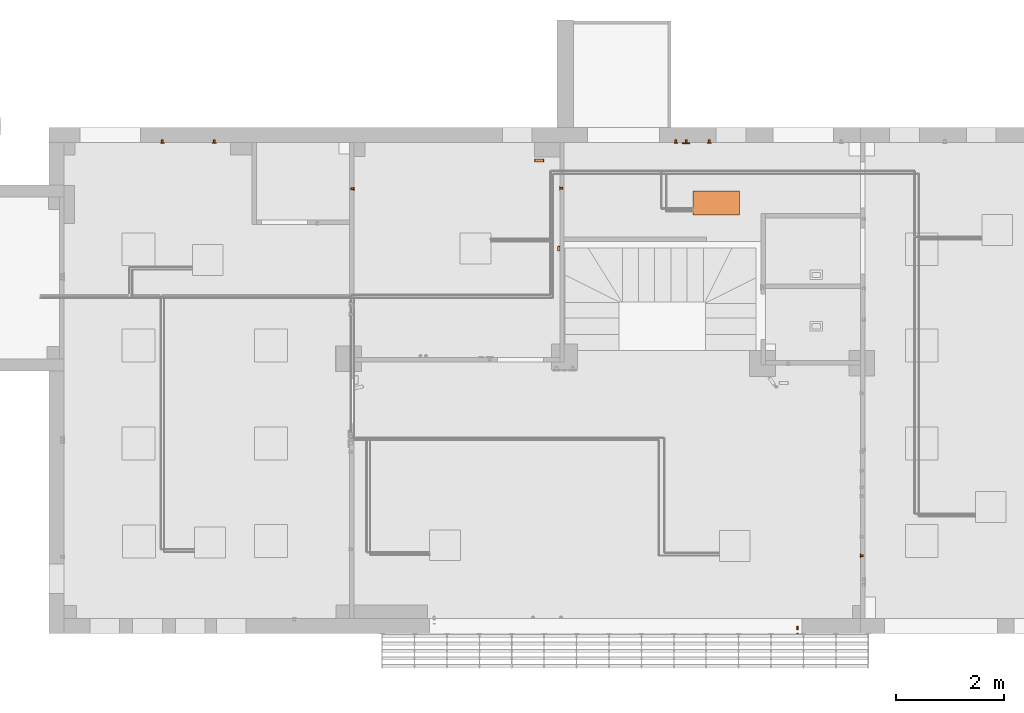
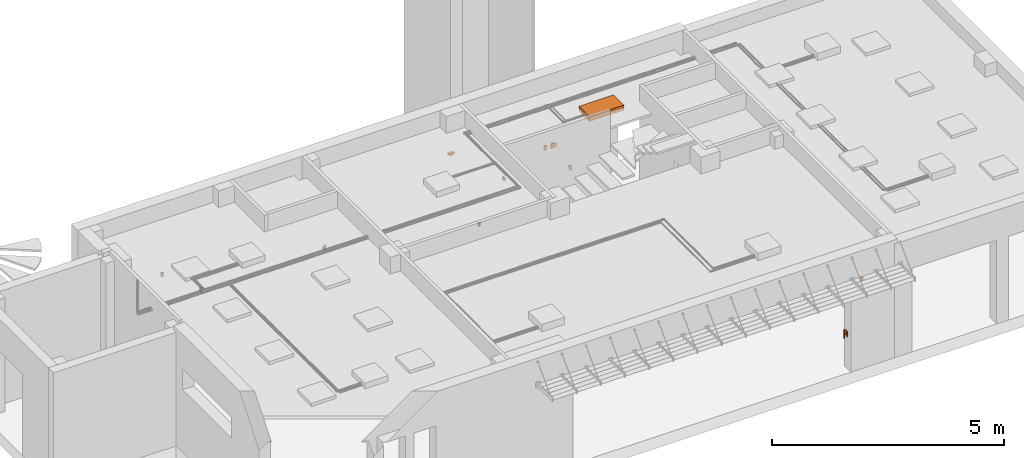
# One storey, part 22 of 24: 12 proxies.
"""IFC2X3 building model written with IfcOpenShell, lengths in millimetres."""

from ifc_helpers import new_model, entity, si_unit, converted_unit, derived_unit, direction, frame, frame_2d, origin, origin_2d_with_axis, place, context, subcontext, project, spatial, polyline, circle_curve, parameter, trimmed, segment, composite_curve, rectangle, circle, outline, extrude, source, transform, mapped, material, material_list, type_object, type_shapes, element, save


model = new_model("IFC2X3")

# Units and contexts
model_context = context("Model", 3, precision=0.01, world=origin(), true_north=direction((6.123031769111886e-17, 1.0)))
body_context = subcontext(model_context, "Body", "Model", "MODEL_VIEW")
ifc_project = project(units=[si_unit("LENGTHUNIT", "METRE", prefix="MILLI"), si_unit("AREAUNIT", "SQUARE_METRE"), si_unit("VOLUMEUNIT", "CUBIC_METRE"), converted_unit("PLANEANGLEUNIT", "DEGREE", entity("IfcRatioMeasure", 0.017453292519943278), si_unit("PLANEANGLEUNIT", "RADIAN"), dimensions=[0, 0, 0, 0, 0, 0, 0]), si_unit("MASSUNIT", "GRAM", prefix="KILO"), derived_unit("MASSDENSITYUNIT", [(si_unit("MASSUNIT", "GRAM", prefix="KILO"), 1), (si_unit("LENGTHUNIT", "METRE"), -3)]), derived_unit("MOMENTOFINERTIAUNIT", [(si_unit("LENGTHUNIT", "METRE"), 4)]), si_unit("TIMEUNIT", "SECOND"), si_unit("FREQUENCYUNIT", "HERTZ"), si_unit("THERMODYNAMICTEMPERATUREUNIT", "DEGREE_CELSIUS"), derived_unit("THERMALTRANSMITTANCEUNIT", [(si_unit("MASSUNIT", "GRAM", prefix="KILO"), 1), (si_unit("THERMODYNAMICTEMPERATUREUNIT", "KELVIN"), -1), (si_unit("TIMEUNIT", "SECOND"), -3)]), derived_unit("VOLUMETRICFLOWRATEUNIT", [(si_unit("LENGTHUNIT", "METRE"), 3), (si_unit("TIMEUNIT", "SECOND"), -1)]), derived_unit("MASSFLOWRATEUNIT", [(si_unit("MASSUNIT", "GRAM", prefix="KILO"), 1), (si_unit("TIMEUNIT", "SECOND"), -1)]), derived_unit("ROTATIONALFREQUENCYUNIT", [(si_unit("TIMEUNIT", "SECOND"), -1)]), si_unit("ELECTRICCURRENTUNIT", "AMPERE"), si_unit("ELECTRICVOLTAGEUNIT", "VOLT"), si_unit("POWERUNIT", "WATT"), si_unit("FORCEUNIT", "NEWTON", prefix="KILO"), si_unit("ILLUMINANCEUNIT", "LUX"), si_unit("LUMINOUSFLUXUNIT", "LUMEN"), si_unit("LUMINOUSINTENSITYUNIT", "CANDELA"), derived_unit("USERDEFINED", [(si_unit("MASSUNIT", "GRAM", prefix="KILO"), -1), (si_unit("LENGTHUNIT", "METRE"), -2), (si_unit("TIMEUNIT", "SECOND"), 3), (si_unit("LUMINOUSFLUXUNIT", "LUMEN"), 1)]), derived_unit("SOUNDPOWERUNIT", [(si_unit("MASSUNIT", "GRAM", prefix="KILO"), 1), (si_unit("LENGTHUNIT", "METRE"), 2), (si_unit("TIMEUNIT", "SECOND"), -3)]), derived_unit("SOUNDPRESSUREUNIT", [(si_unit("MASSUNIT", "GRAM", prefix="KILO"), 1), (si_unit("LENGTHUNIT", "METRE"), -1), (si_unit("TIMEUNIT", "SECOND"), -2)]), derived_unit("LINEARVELOCITYUNIT", [(si_unit("LENGTHUNIT", "METRE"), 1), (si_unit("TIMEUNIT", "SECOND"), -1)]), si_unit("PRESSUREUNIT", "PASCAL"), derived_unit("USERDEFINED", [(si_unit("LENGTHUNIT", "METRE"), -2), (si_unit("MASSUNIT", "GRAM", prefix="KILO"), 1), (si_unit("TIMEUNIT", "SECOND"), -2)]), derived_unit("LINEARFORCEUNIT", [(si_unit("MASSUNIT", "GRAM", prefix="KILO"), 1), (si_unit("LENGTHUNIT", "METRE"), 1), (si_unit("TIMEUNIT", "SECOND"), -2), (si_unit("LENGTHUNIT", "METRE"), -1)]), derived_unit("PLANARFORCEUNIT", [(si_unit("MASSUNIT", "GRAM", prefix="KILO"), 1), (si_unit("LENGTHUNIT", "METRE"), 1), (si_unit("TIMEUNIT", "SECOND"), -2), (si_unit("LENGTHUNIT", "METRE"), -2)])], contexts=[model_context])

# Site, building, storey
site_placement = place(None, origin())
site = spatial("IfcSite", under=ifc_project, at=site_placement, Name="Default", CompositionType="ELEMENT")
building_placement = place(site_placement, origin())
building = spatial("IfcBuilding", under=site, at=building_placement, CompositionType="ELEMENT")
storey_placement = place(building_placement, origin())
storey = spatial("IfcBuildingStorey", under=building, at=storey_placement, Name="Level 1", CompositionType="ELEMENT", Elevation=0.0)

# Proxies
ifc_material_1 = material(Name="Polished Steel")
ifc_material_list_1 = material_list([ifc_material_1, ifc_material_1, ifc_material_1, ifc_material_1, ifc_material_1, ifc_material_1, ifc_material_1, ifc_material_1, ifc_material_1])
ifc_material_list_2 = material_list([ifc_material_1, ifc_material_1, ifc_material_1, ifc_material_1, ifc_material_1, ifc_material_1, ifc_material_1, ifc_material_1, ifc_material_1])
building_element_proxy_type_1 = type_object("IfcBuildingElementProxyType", Name="Alumil Chic:Alumil Chic:Alumil Chic : Alumil Chic:Alumil Chic", PredefinedType="NOTDEFINED", material=ifc_material_list_2)
shared_shape_1 = source(origin(), body_context, "Body", "SweptSolid", [
    extrude(outline(polyline([(-17.0, -63.18070480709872), (17.0, -63.18070480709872), (17.0, 63.18070480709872), (-17.0, 63.18070480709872), (-17.0, -63.18070480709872)]), holes=[composite_curve([segment(polyline([(-7.5000000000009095, 49.659319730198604), (7.4999999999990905, 49.659319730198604)]), True, "CONTINUOUS"), segment(trimmed(circle_curve(frame_2d((7.4999999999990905, 44.659319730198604), x_axis=(-1.0, 0.0)), 5.0), [parameter(179.99999999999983)], [parameter(269.9999999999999)], True, "PARAMETER"), False, "CONTINUOUS"), segment(polyline([(12.49999999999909, 44.659319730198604), (12.49999999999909, -23.30226200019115)]), True, "CONTINUOUS"), segment(trimmed(circle_curve(frame_2d((7.4999999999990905, -23.30226200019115), x_axis=(-1.0, 0.0)), 5.0), [parameter(90.00000000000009)], [parameter(179.99999999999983)], True, "PARAMETER"), False, "CONTINUOUS"), segment(polyline([(7.4999999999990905, -28.302262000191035), (-7.5000000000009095, -28.302262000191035)]), True, "CONTINUOUS"), segment(trimmed(circle_curve(frame_2d((-7.5000000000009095, -23.30226200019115), x_axis=(-1.0, 0.0)), 5.0), [parameter(0.0)], [parameter(90.00000000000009)], True, "PARAMETER"), False, "CONTINUOUS"), segment(polyline([(-12.50000000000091, -23.30226200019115), (-12.50000000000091, 44.659319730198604)]), True, "CONTINUOUS"), segment(trimmed(circle_curve(frame_2d((-7.5000000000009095, 44.659319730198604), x_axis=(-1.0, 0.0)), 5.0), [parameter(269.9999999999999)], [parameter(0.0)], True, "PARAMETER"), False, "CONTINUOUS")], self_intersect=False)]), frame((4439.659498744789, -4079.9664404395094, 1036.8192951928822), z_axis=(0.0, 1.0, 0.0), x_axis=(-1.0, 0.0, 0.0)), (0.0, 0.0, 1.0), 4.013253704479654),
    extrude(outline(composite_curve([segment(trimmed(circle_curve(frame_2d((-7.5, -33.98079086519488), x_axis=(1.0, 0.0)), 4.0), [parameter(180.00000000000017)], [parameter(269.9999999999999)], True, "PARAMETER"), True, "CONTINUOUS"), segment(polyline([(-7.5, -37.98079086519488), (7.5, -37.98079086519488)]), True, "CONTINUOUS"), segment(trimmed(circle_curve(frame_2d((7.5, -33.98079086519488), x_axis=(1.0, 0.0)), 4.0), [parameter(269.9999999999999)], [parameter(0.0)], True, "PARAMETER"), True, "CONTINUOUS"), segment(polyline([(11.5, -33.98079086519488), (11.5, 33.98079086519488)]), True, "CONTINUOUS"), segment(trimmed(circle_curve(frame_2d((7.5, 33.98079086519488), x_axis=(1.0, 0.0)), 4.0), [parameter(0.0)], [parameter(90.00000000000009)], True, "PARAMETER"), True, "CONTINUOUS"), segment(polyline([(7.5, 37.98079086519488), (-7.5, 37.98079086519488)]), True, "CONTINUOUS"), segment(trimmed(circle_curve(frame_2d((-7.5, 33.98079086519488), x_axis=(1.0, 0.0)), 4.0), [parameter(90.00000000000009)], [parameter(180.00000000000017)], True, "PARAMETER"), True, "CONTINUOUS"), segment(polyline([(-11.5, 33.98079086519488), (-11.5, -33.98079086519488)]), True, "CONTINUOUS")], self_intersect=False)), frame((4439.65949874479, -4079.9664404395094, 1047.497824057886), z_axis=(0.0, 1.0, 0.0), x_axis=(1.0, 0.0, 0.0)), (0.0, 0.0, 1.0), 4.013253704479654),
    extrude(rectangle(XDim=14.085299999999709, YDim=34.00000000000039, at=frame_2d((0.0, 2.7000623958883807e-13), x_axis=(1.0, 0.0))), frame((4439.659498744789, -3998.99583673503, 973.6385903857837), z_axis=(0.0, 0.0, 1.0), x_axis=(0.0, -1.0, 0.0)), (0.0, 0.0, 1.0), 126.36140961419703),
    extrude(outline(composite_curve([segment(trimmed(circle_curve(frame_2d((8.939850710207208, -9.376473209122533), x_axis=(-0.7071067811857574, -0.7071067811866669)), 0.535018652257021), [parameter(0.0)], [parameter(90.00000000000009)], True, "PARAMETER"), True, "CONTINUOUS"), segment(polyline([(9.318166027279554, -9.754788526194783), (10.351660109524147, -8.72129444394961)]), True, "CONTINUOUS"), segment(polyline([(10.351660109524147, -8.72129444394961), (-8.721131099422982, 10.351496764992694)]), True, "CONTINUOUS"), segment(polyline([(-8.721131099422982, 10.351496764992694), (-9.755115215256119, 9.317512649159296)]), True, "CONTINUOUS"), segment(trimmed(circle_curve(frame_2d((-9.377289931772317, 8.93968736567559), x_axis=(-0.7071067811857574, -0.7071067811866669)), 0.5343256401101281), [parameter(269.9999999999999)], [parameter(0.0)], True, "PARAMETER"), True, "CONTINUOUS"), segment(polyline([(-9.755115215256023, 8.561862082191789), (8.561535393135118, -9.75478852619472)]), True, "CONTINUOUS")], self_intersect=False)), frame((4426.65949874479, -3990.8003441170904, 1061.7502748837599), z_axis=(1.0, 0.0, 0.0), x_axis=(0.0, -0.7071067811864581, 0.707106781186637)), (0.0, 0.0, 1.0), 26.000000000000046),
    extrude(outline(composite_curve([segment(polyline([(-123.48954396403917, -32.45961095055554), (-98.03977243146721, -32.45961095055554)]), True, "CONTINUOUS"), segment(trimmed(circle_curve(frame_2d((-98.03977243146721, -31.70972865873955), x_axis=(0.0, 1.0)), 0.7498822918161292), [parameter(180.00000000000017)], [parameter(268.5005006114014)], True, "PARAMETER"), True, "CONTINUOUS"), segment(polyline([(-97.29014693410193, -31.72935173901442), (-96.40375935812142, 2.13173011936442)]), True, "CONTINUOUS"), segment(trimmed(circle_curve(frame_2d((-91.40547158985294, 2.0008890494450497), x_axis=(0.0, 1.0)), 5.0), [parameter(0.0)], [parameter(88.50050061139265)], True, "PARAMETER"), False, "CONTINUOUS"), segment(polyline([(-91.40547158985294, 7.00088904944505), (101.87010285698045, 7.0008890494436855)]), True, "CONTINUOUS"), segment(trimmed(circle_curve(frame_2d((101.87010285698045, 3.399517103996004), x_axis=(0.0, 1.0)), 3.6013719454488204), [parameter(330.9999999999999)], [parameter(0.0)], True, "PARAMETER"), False, "CONTINUOUS"), segment(polyline([(103.61608262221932, 6.549347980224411), (110.61685898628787, 2.6687542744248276)]), True, "CONTINUOUS"), segment(trimmed(circle_curve(frame_2d((111.31543601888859, 3.9290206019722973), x_axis=(0.0, 1.0)), 1.44093063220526), [parameter(151.0000000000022)], [parameter(241.00000000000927)], True, "PARAMETER"), True, "CONTINUOUS"), segment(polyline([(112.57570234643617, 3.2304435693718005), (117.30770550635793, 11.767203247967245)]), True, "CONTINUOUS"), segment(trimmed(circle_curve(frame_2d((116.34863282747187, 12.29882591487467), x_axis=(0.0, 1.0)), 1.09655964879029), [parameter(240.99999999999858)], [parameter(328.9999999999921)], True, "PARAMETER"), True, "CONTINUOUS"), segment(polyline([(116.91340279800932, 13.23876098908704), (109.40858564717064, 17.748110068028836)]), True, "CONTINUOUS"), segment(trimmed(circle_curve(frame_2d((103.13334236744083, 7.304351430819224), x_axis=(0.0, 1.0)), 12.184037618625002), [parameter(328.9999999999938)], [parameter(359.9999999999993)], True, "PARAMETER"), True, "CONTINUOUS"), segment(polyline([(103.13334236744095, 19.488389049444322), (-121.51095101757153, 19.488389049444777)]), True, "CONTINUOUS"), segment(trimmed(circle_curve(frame_2d((-121.51095101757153, 17.96218697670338), x_axis=(0.0, 1.0)), 1.52620207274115), [parameter(0.0)], [parameter(88.58270728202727)], True, "PARAMETER"), True, "CONTINUOUS"), segment(polyline([(-123.0366861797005, 17.99993590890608), (-124.26545165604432, -31.66426871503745)]), True, "CONTINUOUS"), segment(trimmed(circle_curve(frame_2d((-123.48954396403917, -31.683465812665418), x_axis=(0.0, 1.0)), 0.7761451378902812), [parameter(88.58270728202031)], [parameter(180.00000000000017)], True, "PARAMETER"), True, "CONTINUOUS")], self_intersect=False)), frame((4427.159498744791, -3957.4969757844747, 950.9023619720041), z_axis=(1.0, 0.0, 0.0), x_axis=(0.0, 0.0, -1.0)), (0.0, 0.0, 1.0), 24.99999999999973),
    extrude(outline(composite_curve([segment(trimmed(circle_curve(frame_2d((0.0, 0.3125), x_axis=(1.0, 0.0)), 17.0), [parameter(181.05329056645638)], [parameter(358.94670943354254)], True, "PARAMETER"), True, "CONTINUOUS"), segment(polyline([(16.997127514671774, 0.0), (-16.997127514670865, 0.0)]), True, "CONTINUOUS")], self_intersect=False)), frame((4439.65949874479, -4079.9664404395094, 1100.0), z_axis=(0.0, 1.0, 0.0), x_axis=(1.0, 0.0, 0.0)), (0.0, 0.0, 1.0), 4.013253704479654),
    extrude(outline(composite_curve([segment(polyline([(-17.0, 0.0), (17.0, 0.0)]), True, "CONTINUOUS"), segment(trimmed(circle_curve(origin_2d_with_axis(), 17.0), [parameter(0.0)], [parameter(180.00000000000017)], True, "PARAMETER"), True, "CONTINUOUS")], self_intersect=False)), frame((4439.65949874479, -4079.9664404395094, 973.6385903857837), z_axis=(0.0, 1.0, 0.0), x_axis=(1.0, 0.0, 0.0)), (0.0, 0.0, 1.0), 4.013253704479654),
    extrude(outline(composite_curve([segment(trimmed(circle_curve(frame_2d((0.0, 0.3125), x_axis=(1.0, 0.0)), 17.0), [parameter(181.05329056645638)], [parameter(358.94670943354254)], True, "PARAMETER"), True, "CONTINUOUS"), segment(polyline([(16.997127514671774, 0.0), (-16.997127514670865, 0.0)]), True, "CONTINUOUS")], self_intersect=False)), frame((4439.65949874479, -4006.03848673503, 1100.0), z_axis=(0.0, 1.0, 0.0), x_axis=(1.0, 0.0, 0.0)), (0.0, 0.0, 1.0), 14.085299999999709),
    extrude(outline(composite_curve([segment(polyline([(-17.0, 0.0), (17.0, 0.0)]), True, "CONTINUOUS"), segment(trimmed(circle_curve(origin_2d_with_axis(), 17.0), [parameter(0.0)], [parameter(180.00000000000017)], True, "PARAMETER"), True, "CONTINUOUS")], self_intersect=False)), frame((4439.65949874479, -4006.03848673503, 973.6385903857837), z_axis=(0.0, 1.0, 0.0), x_axis=(1.0, 0.0, 0.0)), (0.0, 0.0, 1.0), 14.085299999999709),
])
type_shapes(building_element_proxy_type_1, [shared_shape_1])
proxy_1_placement = place(storey_placement, origin())
element("IfcBuildingElementProxy", 1, at=proxy_1_placement, inside=storey, type_object=building_element_proxy_type_1, material=ifc_material_list_1, Name="Alumil Chic:Alumil Chic:Alumil Chic : Alumil Chic:Alumil Chic:Alumil Chic:Alumil Chic : Alumil Chic:Alumil Chic : Alumil Chic:Alumil Chic:Alumil Chic : Alumil Chic:Alumil Chic", ObjectType="Alumil Chic:Alumil Chic:Alumil Chic : Alumil Chic:Alumil Chic:Alumil Chic:Alumil Chic : Alumil Chic:Alumil Chic : Alumil Chic:Alumil Chic:Alumil Chic : Alumil Chic:Alumil Chic", context=body_context, shape_type="MappedRepresentation", body=[
    mapped(shared_shape_1, transform((0.0, 0.0, 0.0), scale=1.0)),
])
ifc_material_2 = material(Name="<Unnamed>")
ifc_material_list_3 = material_list([ifc_material_2, ifc_material_2])
ifc_material_list_4 = material_list([ifc_material_2, ifc_material_2])
building_element_proxy_type_2 = type_object("IfcBuildingElementProxyType", Name="M_Receptacle - 220V:Standard:Standard : M_Receptacle - 220V:Standard", PredefinedType="NOTDEFINED", material=ifc_material_list_4)
shared_shape_2 = source(origin(), body_context, "Body", "SweptSolid", [
    extrude(rectangle(XDim=38.1, YDim=53.97500000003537, at=origin_2d_with_axis()), frame((-6362.64849324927, 5038.14901326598, 421.89999999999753), z_axis=(0.0, 0.0, 1.0), x_axis=(-1.0, 0.0, 0.0)), (0.0, 0.0, 1.0), 76.20000000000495),
    extrude(rectangle(XDim=69.8499999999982, YDim=4.762499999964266, at=frame_2d((5.435651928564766e-13, -5.415667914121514e-13), x_axis=(1.0, 0.0))), frame((-6362.648493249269, 5008.780263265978, 402.84999999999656), z_axis=(0.0, 0.0, 1.0), x_axis=(-1.0, 0.0, 0.0)), (0.0, 0.0, 1.0), 114.30000000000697),
])
type_shapes(building_element_proxy_type_2, [shared_shape_2])
proxy_2_placement = place(storey_placement, origin())
element("IfcBuildingElementProxy", 2, at=proxy_2_placement, inside=storey, type_object=building_element_proxy_type_2, material=ifc_material_list_3, Name="M_Receptacle - 220V:Standard:Standard : M_Receptacle - 220V:Standard:Standard:Standard : M_Receptacle - 220V:Standard : M_Receptacle - 220V:Standard:Standard : M_Receptacle - 220V:Standard", ObjectType="M_Receptacle - 220V:Standard:Standard : M_Receptacle - 220V:Standard:Standard:Standard : M_Receptacle - 220V:Standard : M_Receptacle - 220V:Standard:Standard : M_Receptacle - 220V:Standard", context=body_context, shape_type="MappedRepresentation", body=[
    mapped(shared_shape_2, transform((0.0, 0.0, 0.0), scale=1.0)),
])
ifc_material_list_5 = material_list([ifc_material_2, ifc_material_2])
ifc_material_list_6 = material_list([ifc_material_2, ifc_material_2])
building_element_proxy_type_3 = type_object("IfcBuildingElementProxyType", Name="M_Lighting Switches:Three Way:Three Way : M_Lighting Switches:Three Way", PredefinedType="NOTDEFINED", material=ifc_material_list_6)
shared_shape_3 = source(origin(), body_context, "Body", "SweptSolid", [
    extrude(rectangle(XDim=38.1, YDim=53.97500000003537, at=origin_2d_with_axis()), frame((-7320.53451515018, 5038.14901326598, 1161.8999999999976), z_axis=(0.0, 0.0, 1.0), x_axis=(-1.0, 0.0, 0.0)), (0.0, 0.0, 1.0), 76.20000000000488),
    extrude(rectangle(XDim=69.84999999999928, YDim=4.762499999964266, at=frame_2d((0.0, -5.415667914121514e-13), x_axis=(1.0, 0.0))), frame((-7320.534515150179, 5008.780263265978, 1142.8499999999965), z_axis=(0.0, 0.0, 1.0), x_axis=(-1.0, 0.0, 0.0)), (0.0, 0.0, 1.0), 114.30000000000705),
])
type_shapes(building_element_proxy_type_3, [shared_shape_3])
proxy_3_placement = place(storey_placement, origin())
element("IfcBuildingElementProxy", 3, at=proxy_3_placement, inside=storey, type_object=building_element_proxy_type_3, material=ifc_material_list_5, Name="M_Lighting Switches:Three Way:Three Way : M_Lighting Switches:Three Way:Three Way:Three Way : M_Lighting Switches:Three Way : M_Lighting Switches:Three Way:Three Way : M_Lighting Switches:Three Way", ObjectType="M_Lighting Switches:Three Way:Three Way : M_Lighting Switches:Three Way:Three Way:Three Way : M_Lighting Switches:Three Way : M_Lighting Switches:Three Way:Three Way : M_Lighting Switches:Three Way", context=body_context, shape_type="MappedRepresentation", body=[
    mapped(shared_shape_3, transform((0.0, 0.0, 0.0), scale=1.0)),
])
ifc_material_list_7 = material_list([ifc_material_2, ifc_material_2])
ifc_material_list_8 = material_list([ifc_material_2, ifc_material_2])
building_element_proxy_type_4 = type_object("IfcBuildingElementProxyType", Name="M_Receptacle - 220V:Standard:Standard : M_Receptacle - 220V:Standard", PredefinedType="NOTDEFINED", material=ifc_material_list_8)
shared_shape_4 = source(origin(), body_context, "Body", "SweptSolid", [
    extrude(rectangle(XDim=38.1, YDim=53.975000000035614, at=origin_2d_with_axis()), frame((63.52495185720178, 4166.17742830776, 421.89999999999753), z_axis=(0.0, 0.0, 1.0), x_axis=(0.0, 1.0, 0.0)), (0.0, 0.0, 1.0), 76.20000000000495),
    extrude(rectangle(XDim=69.8499999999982, YDim=4.762499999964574, at=frame_2d((0.0, 2.220446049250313e-15), x_axis=(1.0, 0.0))), frame((34.15620185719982, 4166.17742830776, 402.84999999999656), z_axis=(0.0, 0.0, 1.0), x_axis=(0.0, 1.0, 0.0)), (0.0, 0.0, 1.0), 114.30000000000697),
])
type_shapes(building_element_proxy_type_4, [shared_shape_4])
proxy_4_placement = place(storey_placement, origin())
element("IfcBuildingElementProxy", 4, at=proxy_4_placement, inside=storey, type_object=building_element_proxy_type_4, material=ifc_material_list_7, Name="M_Receptacle - 220V:Standard:Standard : M_Receptacle - 220V:Standard:Standard:Standard : M_Receptacle - 220V:Standard : M_Receptacle - 220V:Standard:Standard : M_Receptacle - 220V:Standard", ObjectType="M_Receptacle - 220V:Standard:Standard : M_Receptacle - 220V:Standard:Standard:Standard : M_Receptacle - 220V:Standard : M_Receptacle - 220V:Standard:Standard : M_Receptacle - 220V:Standard", context=body_context, shape_type="MappedRepresentation", body=[
    mapped(shared_shape_4, transform((0.0, 0.0, 0.0), scale=1.0)),
])
ifc_material_list_9 = material_list([ifc_material_2, ifc_material_2])
ifc_material_list_10 = material_list([ifc_material_2, ifc_material_2])
building_element_proxy_type_5 = type_object("IfcBuildingElementProxyType", Name="M_Lighting Switches:Single Pole:Single Pole : M_Lighting Switches:Single Pole", PredefinedType="NOTDEFINED", material=ifc_material_list_10)
shared_shape_5 = source(origin(), body_context, "Body", "SweptSolid", [
    extrude(rectangle(XDim=38.10000000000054, YDim=53.97500000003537, at=frame_2d((-2.7000623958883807e-13, 0.0), x_axis=(1.0, 0.0))), frame((-3802.3432787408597, 4156.11917681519, 1161.8999999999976), z_axis=(0.0, 0.0, 1.0), x_axis=(0.0, -1.0, 0.0)), (0.0, 0.0, 1.0), 76.20000000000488),
    extrude(rectangle(XDim=69.84999999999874, YDim=4.762499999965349, at=frame_2d((-2.7000623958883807e-13, 0.0), x_axis=(1.0, 0.0))), frame((-3772.9745287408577, 4156.11917681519, 1142.8499999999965), z_axis=(0.0, 0.0, 1.0), x_axis=(0.0, -1.0, 0.0)), (0.0, 0.0, 1.0), 114.30000000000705),
])
type_shapes(building_element_proxy_type_5, [shared_shape_5])
proxy_5_placement = place(storey_placement, origin())
element("IfcBuildingElementProxy", 5, at=proxy_5_placement, inside=storey, type_object=building_element_proxy_type_5, material=ifc_material_list_9, Name="M_Lighting Switches:Single Pole:Single Pole : M_Lighting Switches:Single Pole:Single Pole:Single Pole : M_Lighting Switches:Single Pole : M_Lighting Switches:Single Pole:Single Pole : M_Lighting Switches:Single Pole", ObjectType="M_Lighting Switches:Single Pole:Single Pole : M_Lighting Switches:Single Pole:Single Pole:Single Pole : M_Lighting Switches:Single Pole : M_Lighting Switches:Single Pole:Single Pole : M_Lighting Switches:Single Pole", context=body_context, shape_type="MappedRepresentation", body=[
    mapped(shared_shape_5, transform((0.0, 0.0, 0.0), scale=1.0)),
])
building_element_proxy_type_6 = type_object("IfcBuildingElementProxyType", Name="Indoor LG 1way simple box KRIPIS v1 SYSTEMS:ARNU09GTUC4:ARNU09GTUC4 : Indoor LG 1way simple box KRIPIS v1 SYSTEMS:ARNU09GTUC4", PredefinedType="NOTDEFINED", material=ifc_material_2)
shared_shape_6 = source(origin(), body_context, "Body", "SweptSolid", [
    extrude(rectangle(XDim=860.0, YDim=450.00000000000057, at=frame_2d((-2.5579538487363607e-13, 0.0), x_axis=(1.0, 0.0))), frame((2933.1500495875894, 3894.9280521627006, 2590.0)), (0.0, 0.0, 1.0), 131.99999999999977),
])
type_shapes(building_element_proxy_type_6, [shared_shape_6])
proxy_6_placement = place(storey_placement, origin())
element("IfcBuildingElementProxy", 6, at=proxy_6_placement, inside=storey, type_object=building_element_proxy_type_6, material=ifc_material_2, context=body_context, shape_type="MappedRepresentation", body=[
    mapped(shared_shape_6, transform((0.0, 0.0, 0.0), scale=1.0)),
])
ifc_material_list_11 = material_list([ifc_material_2, ifc_material_2])
ifc_material_list_12 = material_list([ifc_material_2, ifc_material_2])
building_element_proxy_type_7 = type_object("IfcBuildingElementProxyType", Name="M_Weather Proof Receptacle:220 V:220 V : M_Weather Proof Receptacle:220 V", PredefinedType="NOTDEFINED", material=ifc_material_list_12)
shared_shape_7 = source(origin(), body_context, "Body", "SweptSolid", [
    extrude(rectangle(XDim=38.09999999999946, YDim=53.97500000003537, at=frame_2d((-2.7000623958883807e-13, 0.0), x_axis=(1.0, 0.0))), frame((5632.70529323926, -2634.61921183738, 1161.8999999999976), z_axis=(0.0, 0.0, 1.0), x_axis=(0.0, 1.0, 0.0)), (0.0, 0.0, 1.0), 76.20000000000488),
    extrude(rectangle(XDim=69.84999999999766, YDim=4.762499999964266, at=frame_2d((-2.7355895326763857e-13, -5.415667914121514e-13), x_axis=(1.0, 0.0))), frame((5603.336543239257, -2634.61921183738, 1142.8499999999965), z_axis=(0.0, 0.0, 1.0), x_axis=(0.0, 1.0, 0.0)), (0.0, 0.0, 1.0), 114.30000000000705),
])
type_shapes(building_element_proxy_type_7, [shared_shape_7])
proxy_7_placement = place(storey_placement, origin())
element("IfcBuildingElementProxy", 7, at=proxy_7_placement, inside=storey, type_object=building_element_proxy_type_7, material=ifc_material_list_11, Name="M_Weather Proof Receptacle:220 V:220 V : M_Weather Proof Receptacle:220 V:220 V:220 V : M_Weather Proof Receptacle:220 V : M_Weather Proof Receptacle:220 V:220 V : M_Weather Proof Receptacle:220 V", ObjectType="M_Weather Proof Receptacle:220 V:220 V : M_Weather Proof Receptacle:220 V:220 V:220 V : M_Weather Proof Receptacle:220 V : M_Weather Proof Receptacle:220 V:220 V : M_Weather Proof Receptacle:220 V", context=body_context, shape_type="MappedRepresentation", body=[
    mapped(shared_shape_7, transform((0.0, 0.0, 0.0), scale=1.0)),
])
ifc_material_list_13 = material_list([ifc_material_2, ifc_material_2])
ifc_material_list_14 = material_list([ifc_material_2, ifc_material_2])
building_element_proxy_type_8 = type_object("IfcBuildingElementProxyType", Name="M_Receptacle - 220V:Standard:Standard : M_Receptacle - 220V:Standard", PredefinedType="NOTDEFINED", material=ifc_material_list_14)
shared_shape_8 = source(origin(), body_context, "Body", "SweptSolid", [
    extrude(rectangle(XDim=38.09999999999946, YDim=53.97500000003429, at=frame_2d((-2.7000623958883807e-13, -5.400124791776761e-13), x_axis=(1.0, 0.0))), frame((2806.3450924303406, 5038.14901326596, 421.89999999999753), z_axis=(0.0, 0.0, 1.0), x_axis=(-1.0, 0.0, 0.0)), (0.0, 0.0, 1.0), 76.20000000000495),
    extrude(rectangle(XDim=69.84999999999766, YDim=4.762499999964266, at=frame_2d((2.7355895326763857e-13, 5.415667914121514e-13), x_axis=(1.0, 0.0))), frame((2806.3450924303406, 5008.78026326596, 402.84999999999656), z_axis=(0.0, 0.0, 1.0), x_axis=(-1.0, 0.0, 0.0)), (0.0, 0.0, 1.0), 114.30000000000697),
])
type_shapes(building_element_proxy_type_8, [shared_shape_8])
proxy_8_placement = place(storey_placement, origin())
element("IfcBuildingElementProxy", 8, at=proxy_8_placement, inside=storey, type_object=building_element_proxy_type_8, material=ifc_material_list_13, Name="M_Receptacle - 220V:Standard:Standard : M_Receptacle - 220V:Standard:Standard:Standard : M_Receptacle - 220V:Standard : M_Receptacle - 220V:Standard:Standard : M_Receptacle - 220V:Standard", ObjectType="M_Receptacle - 220V:Standard:Standard : M_Receptacle - 220V:Standard:Standard:Standard : M_Receptacle - 220V:Standard : M_Receptacle - 220V:Standard:Standard : M_Receptacle - 220V:Standard", context=body_context, shape_type="MappedRepresentation", body=[
    mapped(shared_shape_8, transform((0.0, 0.0, 0.0), scale=1.0)),
])
ifc_material_list_15 = material_list([ifc_material_2, ifc_material_2])
ifc_material_list_16 = material_list([ifc_material_2, ifc_material_2])
building_element_proxy_type_9 = type_object("IfcBuildingElementProxyType", Name="M_Lighting Switches:Three Way:Three Way : M_Lighting Switches:Three Way", PredefinedType="NOTDEFINED", material=ifc_material_list_16)
shared_shape_9 = source(origin(), body_context, "Body", "SweptSolid", [
    extrude(rectangle(XDim=38.09999999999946, YDim=53.97500000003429, at=frame_2d((2.7000623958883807e-13, -5.400124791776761e-13), x_axis=(1.0, 0.0))), frame((2187.3096550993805, 5038.14901326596, 1161.8999999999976), z_axis=(0.0, 0.0, 1.0), x_axis=(-1.0, 0.0, 0.0)), (0.0, 0.0, 1.0), 76.20000000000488),
    extrude(rectangle(XDim=69.84999999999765, YDim=4.762499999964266, at=frame_2d((0.0, 5.415667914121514e-13), x_axis=(1.0, 0.0))), frame((2187.3096550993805, 5008.78026326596, 1142.8499999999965), z_axis=(0.0, 0.0, 1.0), x_axis=(-1.0, 0.0, 0.0)), (0.0, 0.0, 1.0), 114.30000000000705),
])
type_shapes(building_element_proxy_type_9, [shared_shape_9])
proxy_9_placement = place(storey_placement, origin())
element("IfcBuildingElementProxy", 9, at=proxy_9_placement, inside=storey, type_object=building_element_proxy_type_9, material=ifc_material_list_15, Name="M_Lighting Switches:Three Way:Three Way : M_Lighting Switches:Three Way:Three Way:Three Way : M_Lighting Switches:Three Way : M_Lighting Switches:Three Way:Three Way : M_Lighting Switches:Three Way", ObjectType="M_Lighting Switches:Three Way:Three Way : M_Lighting Switches:Three Way:Three Way:Three Way : M_Lighting Switches:Three Way : M_Lighting Switches:Three Way:Three Way : M_Lighting Switches:Three Way", context=body_context, shape_type="MappedRepresentation", body=[
    mapped(shared_shape_9, transform((0.0, 0.0, 0.0), scale=1.0)),
])
ifc_material_list_17 = material_list([ifc_material_2, ifc_material_2])
ifc_material_list_18 = material_list([ifc_material_2, ifc_material_2])
building_element_proxy_type_10 = type_object("IfcBuildingElementProxyType", Name="Thermostat Kripis v3:Standard:Standard : Thermostat Kripis v3:Standard", PredefinedType="NOTDEFINED", material=ifc_material_list_18)
shared_shape_10 = source(origin(), body_context, "Body", "SweptSolid", [
    extrude(rectangle(XDim=38.09999999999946, YDim=53.97500000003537, at=origin_2d_with_axis()), frame((2375.12322343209, 5038.14901326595, 1161.8999999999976), z_axis=(0.0, 0.0, 1.0), x_axis=(-1.0, 0.0, 0.0)), (0.0, 0.0, 1.0), 76.20000000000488),
    extrude(rectangle(XDim=136.02499999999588, YDim=20.733368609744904, at=frame_2d((-1.3500311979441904e-13, -5.417888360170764e-13), x_axis=(1.0, 0.0))), frame((2377.185723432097, 5000.794828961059, 1142.8499999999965), z_axis=(0.0, 0.0, 1.0), x_axis=(-1.0, 0.0, 0.0)), (0.0, 0.0, 1.0), 114.30000000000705),
])
type_shapes(building_element_proxy_type_10, [shared_shape_10])
proxy_10_placement = place(storey_placement, origin())
element("IfcBuildingElementProxy", 10, at=proxy_10_placement, inside=storey, type_object=building_element_proxy_type_10, material=ifc_material_list_17, Name="Thermostat Kripis v3:Standard:Standard : Thermostat Kripis v3:Standard:Standard:Standard : Thermostat Kripis v3:Standard : Thermostat Kripis v3:Standard:Standard : Thermostat Kripis v3:Standard", ObjectType="Thermostat Kripis v3:Standard:Standard : Thermostat Kripis v3:Standard:Standard:Standard : Thermostat Kripis v3:Standard : Thermostat Kripis v3:Standard:Standard : Thermostat Kripis v3:Standard", context=body_context, shape_type="MappedRepresentation", body=[
    mapped(shared_shape_10, transform((0.0, 0.0, 0.0), scale=1.0)),
])
ifc_material_3 = material(Name="Plastic - Sony - Black_Matt")
ifc_material_list_19 = material_list([ifc_material_3, ifc_material_3, ifc_material_3, ifc_material_3])
ifc_material_list_20 = material_list([ifc_material_3, ifc_material_3, ifc_material_3, ifc_material_3])
building_element_proxy_type_11 = type_object("IfcBuildingElementProxyType", Name="Camera ORBBEC v1:Camera ORBBEC v1:Camera ORBBEC v1 : Camera ORBBEC v1:Camera ORBBEC v1", PredefinedType="NOTDEFINED", material=ifc_material_list_20)
shared_shape_11 = source(origin(), body_context, "Body", "SweptSolid", [
    extrude(circle(Radius=9.99999999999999, at=origin_2d_with_axis()), frame((-295.87514477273, 4653.16151326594, 2147.045539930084), z_axis=(0.0, 1.0, 0.0), x_axis=(1.0, 0.0, 0.0)), (0.0, 0.0, 1.0), 2.0000000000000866),
    extrude(circle(Radius=9.99999999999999, at=origin_2d_with_axis()), frame((-385.87514477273, 4653.16151326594, 2147.0455399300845), z_axis=(0.0, 1.0, 0.0), x_axis=(1.0, 0.0, 0.0)), (0.0, 0.0, 1.0), 2.0000000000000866),
    extrude(circle(Radius=9.99999999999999, at=origin_2d_with_axis()), frame((-332.12514477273, 4653.16151326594, 2147.045539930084), z_axis=(0.0, 1.0, 0.0), x_axis=(1.0, 0.0, 0.0)), (0.0, 0.0, 1.0), 2.0000000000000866),
    extrude(outline(polyline([(8.086050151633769, -83.03474694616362), (28.086050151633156, -83.03474694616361), (38.08605015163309, -65.71423887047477), (11.376977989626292, -19.45276886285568), (20.34812115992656, -14.273276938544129), (32.84812115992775, -35.92391203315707), (50.16862923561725, -25.92391203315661), (2.668629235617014, 56.34850132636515), (-14.651878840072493, 46.3485013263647), (-2.1518788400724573, 24.69786623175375), (-11.123022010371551, 19.518374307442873), (-37.913949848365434, 65.92162250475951), (-57.913949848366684, 65.92162250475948), (-67.91394984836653, 48.60111442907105), (8.086050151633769, -83.03474694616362)])), frame((-343.4102257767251, 4655.161513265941, 2130.4815325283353), z_axis=(0.0, 1.0, 0.0), x_axis=(0.5000000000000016, 0.0, -0.8660254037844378)), (0.0, 0.0, 1.0), 56.00000000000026),
])
type_shapes(building_element_proxy_type_11, [shared_shape_11])
proxy_11_placement = place(storey_placement, origin())
element("IfcBuildingElementProxy", 11, at=proxy_11_placement, inside=storey, type_object=building_element_proxy_type_11, material=ifc_material_list_19, Name="Camera ORBBEC v1:Camera ORBBEC v1:Camera ORBBEC v1 : Camera ORBBEC v1:Camera ORBBEC v1:Camera ORBBEC v1:Camera ORBBEC v1 : Camera ORBBEC v1:Camera ORBBEC v1 : Camera ORBBEC v1:Camera ORBBEC v1:Camera ORBBEC v1 : Camera ORBBEC v1:Camera ORBBEC v1", ObjectType="Camera ORBBEC v1:Camera ORBBEC v1:Camera ORBBEC v1 : Camera ORBBEC v1:Camera ORBBEC v1:Camera ORBBEC v1:Camera ORBBEC v1 : Camera ORBBEC v1:Camera ORBBEC v1 : Camera ORBBEC v1:Camera ORBBEC v1:Camera ORBBEC v1 : Camera ORBBEC v1:Camera ORBBEC v1", context=body_context, shape_type="MappedRepresentation", body=[
    mapped(shared_shape_11, transform((0.0, 0.0, 0.0), scale=1.0)),
])
ifc_material_4 = material(Name="Plastic 166340")
ifc_material_list_21 = material_list([ifc_material_4, ifc_material_4, ifc_material_4])
ifc_material_list_22 = material_list([ifc_material_4, ifc_material_4, ifc_material_4])
building_element_proxy_type_12 = type_object("IfcBuildingElementProxyType", Name="FIH65B_Luminance_Eltaco:FIH65B_Luminance_Eltaco:FIH65B_Luminance_Eltaco : FIH65B_Luminance_Eltaco:FIH65B_Luminance_Eltaco", PredefinedType="NOTDEFINED", material=ifc_material_list_22)
shared_shape_12 = source(origin(), body_context, "Body", "SweptSolid", [
    extrude(circle(Radius=15.0, at=origin_2d_with_axis()), frame((0.5374518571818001, 3049.36724634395, 2339.4576557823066), z_axis=(1.0, 0.0, 0.0), x_axis=(0.0, 1.0, 0.0)), (0.0, 0.0, 1.0), 1.0),
    extrude(outline(composite_curve([segment(trimmed(circle_curve(frame_2d((-34.683875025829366, -34.15629888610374), x_axis=(1.0, 0.0)), 2.9424147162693), [parameter(190.34598735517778)], [parameter(269.9999999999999)], True, "PARAMETER"), True, "CONTINUOUS"), segment(polyline([(-34.683875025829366, -37.098713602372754), (35.316124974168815, -37.09871360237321)]), True, "CONTINUOUS"), segment(trimmed(circle_curve(frame_2d((34.98495954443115, -34.68473259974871), x_axis=(1.0, 0.0)), 2.43659081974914), [parameter(277.81144275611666)], [parameter(0.0)], True, "PARAMETER"), True, "CONTINUOUS"), segment(polyline([(37.42155036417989, -34.68473259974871), (37.42155036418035, 33.882159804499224)]), True, "CONTINUOUS"), segment(trimmed(circle_curve(frame_2d((33.40106774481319, 33.882159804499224), x_axis=(1.0, 0.0)), 4.02048261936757), [parameter(0.0)], [parameter(88.51185657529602)], True, "PARAMETER"), True, "CONTINUOUS"), segment(polyline([(33.505480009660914, 37.90128639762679), (-33.82393141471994, 37.90128639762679)]), True, "CONTINUOUS"), segment(trimmed(circle_curve(frame_2d((-33.82393141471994, 34.13805762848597), x_axis=(1.0, 0.0)), 3.7632287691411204), [parameter(90.00000000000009)], [parameter(183.89909544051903)], True, "PARAMETER"), True, "CONTINUOUS"), segment(polyline([(-37.5784496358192, 33.8821598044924), (-37.5784496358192, -34.6847325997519)]), True, "CONTINUOUS")], self_intersect=False)), frame((1.5374518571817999, 3048.912892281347, 2341.726884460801), z_axis=(1.0, 0.0, 0.0), x_axis=(0.0, 1.0, 0.0)), (0.0, 0.0, 1.0), 5.000000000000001),
    extrude(outline(composite_curve([segment(trimmed(circle_curve(frame_2d((-37.39099920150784, -37.75000000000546), x_axis=(1.0, 0.0)), 4.21874177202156), [parameter(180.00000000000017)], [parameter(251.46866816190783)], True, "PARAMETER"), True, "CONTINUOUS"), segment(polyline([(-38.73181318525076, -41.75000000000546), (37.39025902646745, -41.75000000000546)]), True, "CONTINUOUS"), segment(trimmed(circle_curve(frame_2d((38.29025902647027, -37.75000000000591), x_axis=(1.0, 0.0)), 4.09999999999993), [parameter(257.31961650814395)], [parameter(0.0)], True, "PARAMETER"), True, "CONTINUOUS"), segment(polyline([(42.390259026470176, -37.75000000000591), (42.390259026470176, 37.250000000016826)]), True, "CONTINUOUS"), segment(trimmed(circle_curve(frame_2d((37.3902590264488, 37.250000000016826), x_axis=(1.0, 0.0)), 4.999999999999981), [parameter(0.0)], [parameter(90.00000000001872)], True, "PARAMETER"), True, "CONTINUOUS"), segment(polyline([(37.390259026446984, 42.250000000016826), (-37.609740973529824, 42.24999999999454)]), True, "CONTINUOUS"), segment(trimmed(circle_curve(frame_2d((-36.484740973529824, 37.24999999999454), x_axis=(1.0, 0.0)), 5.125000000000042), [parameter(102.68038349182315)], [parameter(180.00000000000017)], True, "PARAMETER"), True, "CONTINUOUS"), segment(polyline([(-41.60974097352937, 37.24999999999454), (-41.609740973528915, -37.75000000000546)]), True, "CONTINUOUS")], self_intersect=False)), frame((6.5374518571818, 3048.9769873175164, 2341.8994743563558), z_axis=(1.0, 0.0, 0.0), x_axis=(0.0, 1.0, 0.0)), (0.0, 0.0, 1.0), 30.0),
])
type_shapes(building_element_proxy_type_12, [shared_shape_12])
proxy_12_placement = place(storey_placement, origin())
element("IfcBuildingElementProxy", 12, at=proxy_12_placement, inside=storey, type_object=building_element_proxy_type_12, material=ifc_material_list_21, context=body_context, shape_type="MappedRepresentation", body=[
    mapped(shared_shape_12, transform((0.0, 0.0, 0.0), scale=1.0)),
])

save(model, "model.ifc")
